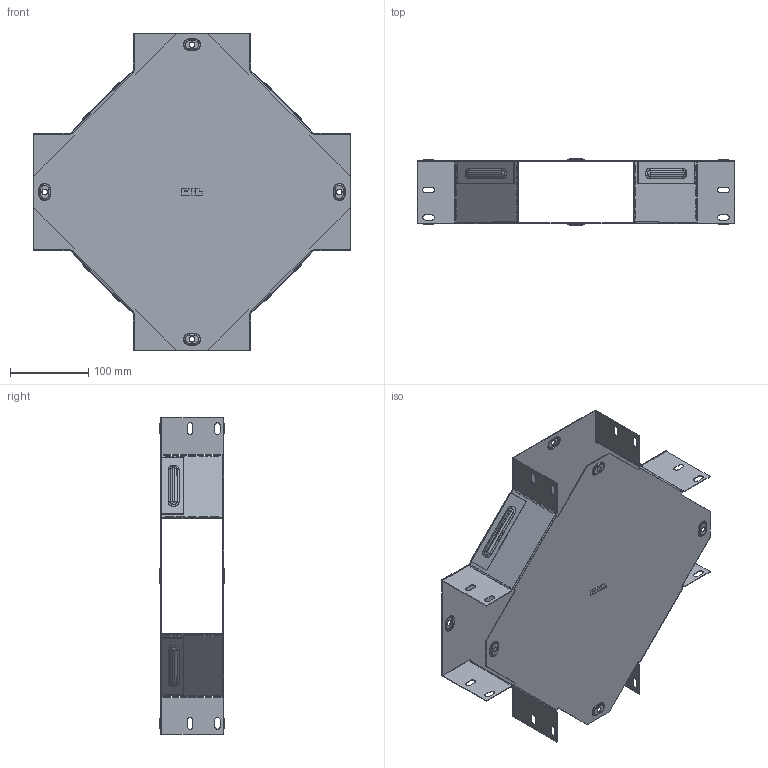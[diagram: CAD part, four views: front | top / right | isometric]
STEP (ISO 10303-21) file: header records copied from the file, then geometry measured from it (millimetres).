
FILE_DESCRIPTION (( 'STEP AP214' ), '1' );
FILE_NAME ('x8015008_捘.STEP', '2019-06-10T07:50:38', ( '砐錪賧瘔蠈錪 Windows' ), ( '' ), 'SwSTEP 2.0', 'SolidWorks 2018', '' );
FILE_SCHEMA (( 'AUTOMOTIVE_DESIGN' ));
Length unit declared in the file: millimetre
Products named in the file (1): x8015008_捘
Bounding box: 405.01 x 83.8 x 405.01 mm (x, y, z)
Volume: 229134.6 mm3; surface area: 577782 mm2
Topology: 2 solids, 2 shells, 948 faces, 2796 edges, 1816 vertices
Faces by surface type: plane 486, cylinder 316, torus 128, bspline 18
Entity records: 32683 total; most frequent: CARTESIAN_POINT 6519, ORIENTED_EDGE 5592, DIRECTION 5446, EDGE_CURVE 2796, VECTOR 1936, LINE 1936, VERTEX_POINT 1816, AXIS2_PLACEMENT_3D 1755
